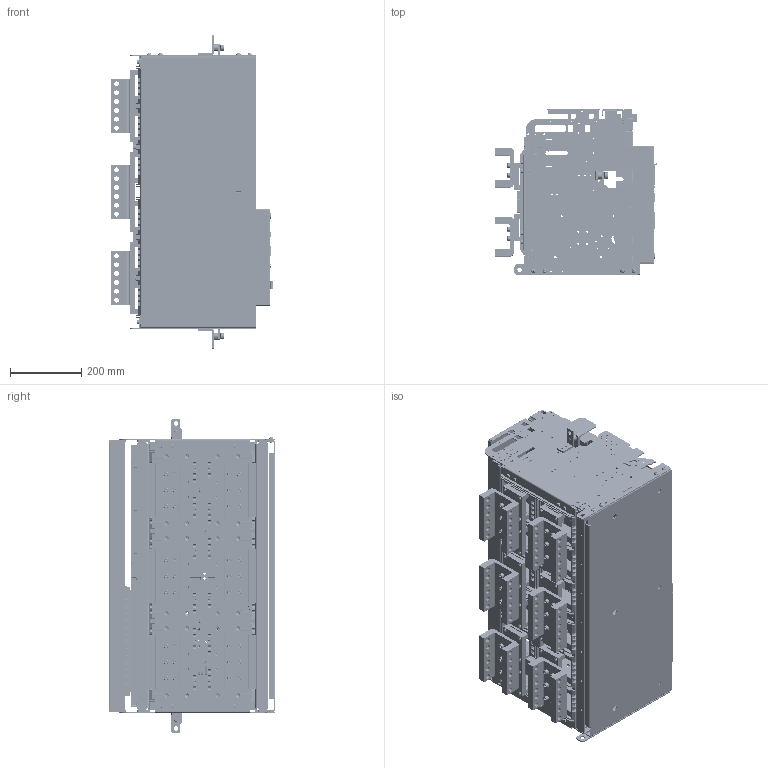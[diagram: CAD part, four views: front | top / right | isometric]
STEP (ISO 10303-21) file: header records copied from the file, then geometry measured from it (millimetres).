
FILE_DESCRIPTION((''),'2;1');
FILE_NAME('D633H_ASM','2017-02-01T',('HHI'),(''),'PRO/ENGINEER BY PARAMETRIC TECHNOLOGY CORPORATION, 2012453','PRO/ENGINEER BY PARAMETRIC TECHNOLOGY CORPORATION, 2012453','');
FILE_SCHEMA(('CONFIG_CONTROL_DESIGN'));
Products named in the file (53): 3AT-03371; 1AT-00887S02_ASM; 3AT-04942; ACB_P_PH_SCREW_M6_L12_SW; 3AT-03372; 1AT-00888S02_ASM; 3AT-04944; CONTROL_JACK_FOR_CRADLE; 9239000363_ASM; 1AT-00880S07_ASM; 3AT-05053; 4AT-06870; 3AT-05054_ASM; 1AT-00751_AF0; HEX_NUT_M6; 1AT-01050_ASM; 3AT-05055; 3AT-05056_ASM; ACB_HEX_BOLT_M6_18_SW; 3AT-05062; 3AT-05305; 3AT-05294_ASM; 3AT-05307; 3AT-05296_ASM; 3AT-05282S02; ACB_HEX_BOLT_M8_L20_SW; SC-FIX-BLOCK-L; FIX_BODY_EXTRA; FIX_BLOCK_CRADLE; BOLT; FIX_BODY_ASM_L_ASM; SC-FIX-BLOCK-R; SC-FIX-BLOCK-SUP-R; FIX_BODY_ASM_R_ASM; U_ARC_SHIELD_633; SC_CONTROL_JACK; SC_MAIN_FRONT_COVER40_2011_1215; SC_DR_DEVICE_COVER2; SC_DR_LOCK_PUSH_BUTTON; SC_MANUAL_POSITION_LOCK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
Assembly tree (172 placements, depth 5):
  D633H_ASM
    1AT-00887S02_ASM
      3AT-03371
    3AT-04942
    ACB_P_PH_SCREW_M6_L12_SW  x4
    1AT-00888S02_ASM
      3AT-03372
    1AT-00880S07_ASM
      3AT-04944
      9239000363_ASM
        CONTROL_JACK_FOR_CRADLE
    3AT-05054_ASM
      3AT-05053
      4AT-06870  x8
    1AT-01050_ASM  x2
      1AT-00751_AF0
      HEX_NUT_M6
    3AT-05056_ASM
      3AT-05055
      4AT-06870  x6
    ACB_HEX_BOLT_M6_18_SW  x8
    3AT-05062  x24
    3AT-05294_ASM  x4
      3AT-05305
    3AT-05296_ASM  x2
      3AT-05307
    3AT-05282S02  x6
    ACB_HEX_BOLT_M8_L20_SW  x36
    FIX_BODY_ASM_L_ASM
      SC-FIX-BLOCK-L
      FIX_BODY_EXTRA
      FIX_BLOCK_CRADLE
      BOLT
    FIX_BODY_ASM_R_ASM
      SC-FIX-BLOCK-R
      SC-FIX-BLOCK-SUP-R
      FIX_BLOCK_CRADLE
      BOLT
    U_ARC_SHIELD_633
    COVER_633_ASM
      COVER403_ASSY_ASM
        SC_CONTROL_JACK
        SC_MAIN_FRONT_COVER40_2011_1215
        DR_COVER_SAMPLE_ASM
          SC_DR_DEVICE_COVER2
          SC_DR_LOCK_PUSH_BUTTON
          SC_MANUAL_POSITION_LOCK
          SC-DR-INDICATOR_SAMPLE
        OCR_COVER_SAMPLE_ASM
          MAIN_SC-OCR-COVER-U-DD-RE
          MAIN_SC-OCR-PROTECTION-COVER-RE
          MAIN_SC-OCR-LOWER-COVER-RE
        SC-CLOSE-BUTTON
        SC-OPEN-BUTTON
        N_CHARGE_HANDLE
      3AT-04830
Bounding box: 453.03 x 466.35 x 878.2 mm (x, y, z)
Volume: 12745601.2 mm3; surface area: 6039248.5 mm2
Topology: 185 solids, 300 shells, 20487 faces, 57742 edges, 37397 vertices
Faces by surface type: plane 14719, cylinder 4425, cone 621, torus 320, extrusion 181, sphere 123, bspline 98
Entity records: 500332 total; most frequent: CARTESIAN_POINT 97418, ORIENTED_EDGE 86602, DIRECTION 78572, EDGE_CURVE 43479, VECTOR 37070, LINE 36889, VERTEX_POINT 28427, AXIS2_PLACEMENT_3D 20751
